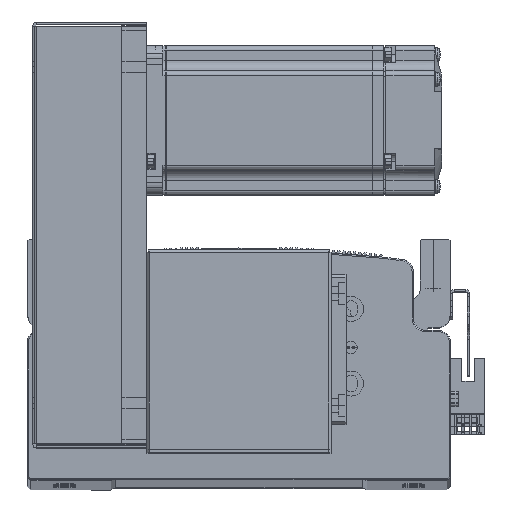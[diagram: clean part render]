
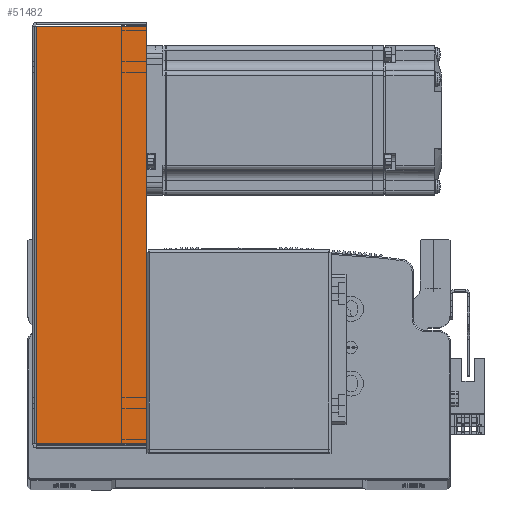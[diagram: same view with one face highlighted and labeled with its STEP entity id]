
A CAD part, top view. The second image highlights one B-rep face of the part: STEP entity #51482.
In plain terms, the highlighted planar face has unit normal (0, 0, 1) as drawn and (0, 0, -1) by its records, which use the part's own axes.
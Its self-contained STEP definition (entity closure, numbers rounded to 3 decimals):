
#29019 = ORIENTED_EDGE ( 'NONE', *, *, #67237, .F. ) ;
#29033 = ORIENTED_EDGE ( 'NONE', *, *, #67125, .F. ) ;
#29087 = ORIENTED_EDGE ( 'NONE', *, *, #67167, .T. ) ;
#29093 = ORIENTED_EDGE ( 'NONE', *, *, #67321, .T. ) ;
#30919 = DIRECTION ( 'NONE',  ( 0., 0., 1. ) ) ;
#30923 = DIRECTION ( 'NONE',  ( 0., -1., 0. ) ) ;
#30938 = CARTESIAN_POINT ( 'NONE',  ( 0., 0., -40.5 ) ) ;
#30941 = PLANE ( 'NONE',  #48761 ) ;
#37152 = FACE_OUTER_BOUND ( 'NONE', #44711, .T. ) ;
#44711 = EDGE_LOOP ( 'NONE', ( #29033, #29087, #29093, #29019 ) ) ;
#48761 = AXIS2_PLACEMENT_3D ( 'NONE', #30938, #30919, #30923 ) ;
#51482 = ADVANCED_FACE ( 'NONE', ( #37152 ), #30941, .F. ) ;
#61419 = CARTESIAN_POINT ( 'NONE',  ( -83.793, 45., -40.5 ) ) ;
#61428 = CARTESIAN_POINT ( 'NONE',  ( -83.793, 0.737, -40.5 ) ) ;
#61453 = CARTESIAN_POINT ( 'NONE',  ( 83.793, 0.737, -40.5 ) ) ;
#61459 = CARTESIAN_POINT ( 'NONE',  ( 83.793, 45., -40.5 ) ) ;
#62917 = VERTEX_POINT ( 'NONE', #61459 ) ;
#62955 = VERTEX_POINT ( 'NONE', #61453 ) ;
#62967 = VERTEX_POINT ( 'NONE', #61419 ) ;
#62974 = VERTEX_POINT ( 'NONE', #61428 ) ;
#67125 = EDGE_CURVE ( 'NONE', #62974, #62955, #70596, .T. ) ;
#67167 = EDGE_CURVE ( 'NONE', #62974, #62967, #70650, .T. ) ;
#67237 = EDGE_CURVE ( 'NONE', #62955, #62917, #70736, .T. ) ;
#67321 = EDGE_CURVE ( 'NONE', #62967, #62917, #70810, .T. ) ;
#70558 = VECTOR ( 'NONE', #72254, 1000. ) ;
#70582 = VECTOR ( 'NONE', #72300, 1000. ) ;
#70596 = LINE ( 'NONE', #72177, #70558 ) ;
#70650 = LINE ( 'NONE', #72282, #70582 ) ;
#70704 = VECTOR ( 'NONE', #72351, 1000. ) ;
#70736 = LINE ( 'NONE', #72381, #70704 ) ;
#70810 = LINE ( 'NONE', #72477, #70816 ) ;
#70816 = VECTOR ( 'NONE', #72518, 1000. ) ;
#72177 = CARTESIAN_POINT ( 'NONE',  ( 0., 0.737, -40.5 ) ) ;
#72254 = DIRECTION ( 'NONE',  ( 1., 0., 0. ) ) ;
#72282 = CARTESIAN_POINT ( 'NONE',  ( -83.793, 0., -40.5 ) ) ;
#72300 = DIRECTION ( 'NONE',  ( 0., 1., 0. ) ) ;
#72351 = DIRECTION ( 'NONE',  ( 0., 1., 0. ) ) ;
#72381 = CARTESIAN_POINT ( 'NONE',  ( 83.793, 0., -40.5 ) ) ;
#72477 = CARTESIAN_POINT ( 'NONE',  ( 84.5, 45., -40.5 ) ) ;
#72518 = DIRECTION ( 'NONE',  ( 1., 0., 0. ) ) ;
